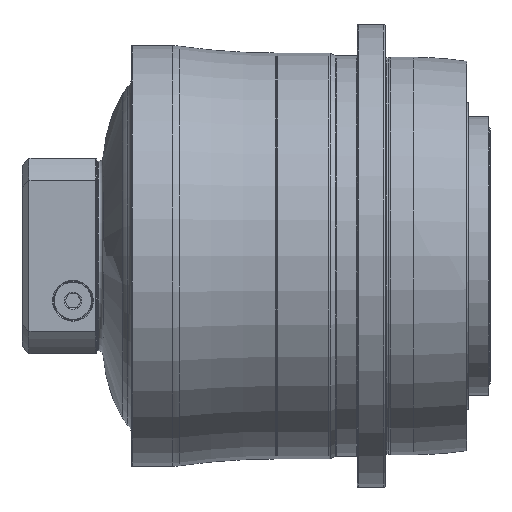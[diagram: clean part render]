
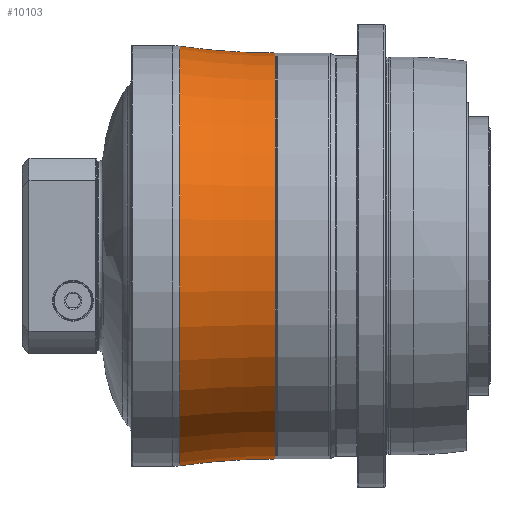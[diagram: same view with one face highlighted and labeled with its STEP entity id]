
A CAD part, top view. The second image highlights one B-rep face of the part: STEP entity #10103.
In plain terms, the highlighted toroidal (fillet/blend) face has major radius 628.22 mm and minor radius 482.72 mm.
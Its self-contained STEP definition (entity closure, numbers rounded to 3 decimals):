
#9005=CARTESIAN_POINT('',(-127.5,628.22,0.));
#9006=DIRECTION('',(0.,0.,1.));
#9007=DIRECTION('',(0.,-1.,0.));
#9008=AXIS2_PLACEMENT_3D('',#9005,#9006,#9007);
#9015=CARTESIAN_POINT('',(-127.5,-628.22,0.));
#9016=DIRECTION('',(0.,0.,-1.));
#9017=DIRECTION('',(0.,1.,0.));
#9018=AXIS2_PLACEMENT_3D('',#9015,#9016,#9017);
#9068=CARTESIAN_POINT('',(-58.929,0.,0.));
#9069=DIRECTION('',(1.,0.,0.));
#9070=DIRECTION('',(0.,1.,0.));
#9071=AXIS2_PLACEMENT_3D('',#9068,#9069,#9070);
#9073=CARTESIAN_POINT('',(-127.5,0.,0.));
#9074=DIRECTION('',(1.,0.,0.));
#9075=DIRECTION('',(0.,1.,0.));
#9076=AXIS2_PLACEMENT_3D('',#9073,#9074,#9075);
#9394=CARTESIAN_POINT('',(-127.5,145.5,0.));
#9395=VERTEX_POINT('',#9394);
#9396=CARTESIAN_POINT('',(-127.5,-145.5,0.));
#9397=VERTEX_POINT('',#9396);
#9450=CARTESIAN_POINT('',(-58.929,150.395,
0.));
#9451=CARTESIAN_POINT('',(-58.929,-150.395,0.));
#9452=VERTEX_POINT('',#9450);
#9453=VERTEX_POINT('',#9451);
#10092=CARTESIAN_POINT('',(-127.5,0.,0.));
#10093=DIRECTION('',(1.,0.,0.));
#10094=DIRECTION('',(0.,-1.,0.));
#10095=AXIS2_PLACEMENT_3D('',#10092,#10093,#10094);
#10096=TOROIDAL_SURFACE('',#10095,628.22,482.72);
#10097=ORIENTED_EDGE('',*,*,#10086,.T.);
#10098=ORIENTED_EDGE('',*,*,#10002,.F.);
#10099=ORIENTED_EDGE('',*,*,#9972,.F.);
#10100=ORIENTED_EDGE('',*,*,#9999,.T.);
#10101=EDGE_LOOP('',(#10097,#10098,#10099,#10100));
#10102=FACE_OUTER_BOUND('',#10101,.F.);
#10103=ADVANCED_FACE('',(#10102),#10096,.F.);
#9009=CIRCLE('',#9008,482.72);
#9019=CIRCLE('',#9018,482.72);
#9072=CIRCLE('',#9071,150.395);
#9077=CIRCLE('',#9076,145.5);
#9972=EDGE_CURVE('',#9395,#9397,#9077,.T.);
#9999=EDGE_CURVE('',#9395,#9452,#9009,.T.);
#10002=EDGE_CURVE('',#9397,#9453,#9019,.T.);
#10086=EDGE_CURVE('',#9452,#9453,#9072,.T.);
